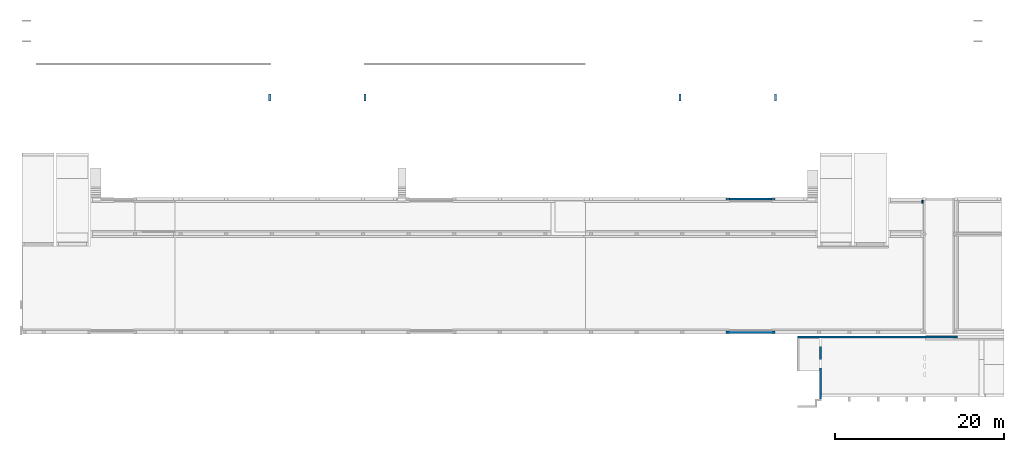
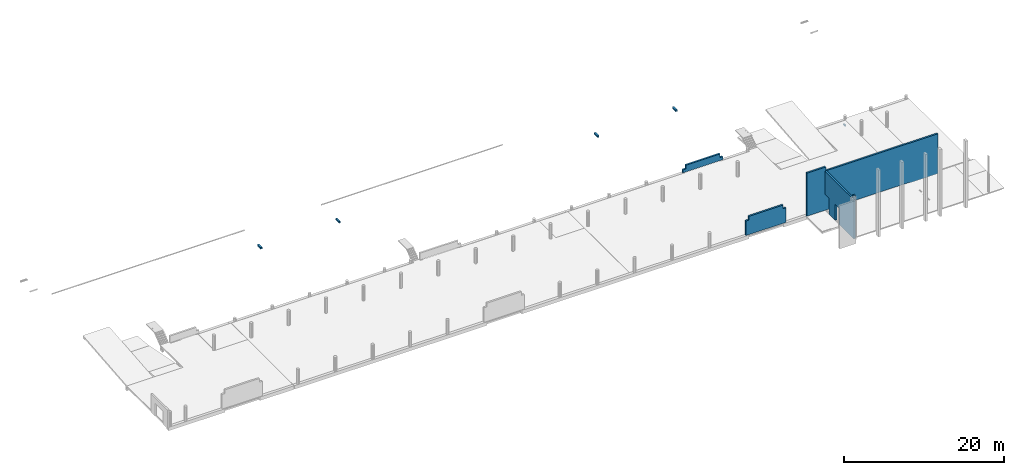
# One storey, part 6 of 9: 9 walls, 9 openings.
"""IFC2X3 building model written with IfcOpenShell, lengths in millimetres."""

from ifc_helpers import new_model, entity, si_unit, converted_unit, derived_unit, direction, frame, frame_2d, origin, origin_2d_with_axis, place, context, subcontext, project, spatial, rectangle, extrude, material, layer, layer_set, layer_usage, type_object, element, save


model = new_model("IFC2X3")

# Units and contexts
model_context = context("Model", 3, precision=0.01, world=origin(), true_north=direction((6.12303176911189e-17, 1.0)))
body_context = subcontext(model_context, "Body", "Model", "MODEL_VIEW")
ifc_project = project(units=[si_unit("LENGTHUNIT", "METRE", prefix="MILLI"), si_unit("AREAUNIT", "SQUARE_METRE"), si_unit("VOLUMEUNIT", "CUBIC_METRE"), converted_unit("PLANEANGLEUNIT", "DEGREE", entity("IfcRatioMeasure", 0.0174532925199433), si_unit("PLANEANGLEUNIT", "RADIAN"), dimensions=[0, 0, 0, 0, 0, 0, 0]), si_unit("MASSUNIT", "GRAM", prefix="KILO"), derived_unit("MASSDENSITYUNIT", [(si_unit("MASSUNIT", "GRAM", prefix="KILO"), 1), (si_unit("LENGTHUNIT", "METRE"), -3)]), si_unit("TIMEUNIT", "SECOND"), si_unit("FREQUENCYUNIT", "HERTZ"), si_unit("THERMODYNAMICTEMPERATUREUNIT", "DEGREE_CELSIUS"), derived_unit("THERMALTRANSMITTANCEUNIT", [(si_unit("MASSUNIT", "GRAM", prefix="KILO"), 1), (si_unit("THERMODYNAMICTEMPERATUREUNIT", "KELVIN"), -1), (si_unit("TIMEUNIT", "SECOND"), -3)]), derived_unit("VOLUMETRICFLOWRATEUNIT", [(si_unit("LENGTHUNIT", "METRE"), 3), (si_unit("TIMEUNIT", "SECOND"), -1)]), si_unit("ELECTRICCURRENTUNIT", "AMPERE"), si_unit("ELECTRICVOLTAGEUNIT", "VOLT"), si_unit("POWERUNIT", "WATT"), si_unit("FORCEUNIT", "NEWTON", prefix="KILO"), si_unit("ILLUMINANCEUNIT", "LUX"), si_unit("LUMINOUSFLUXUNIT", "LUMEN"), si_unit("LUMINOUSINTENSITYUNIT", "CANDELA"), derived_unit("USERDEFINED", [(si_unit("MASSUNIT", "GRAM", prefix="KILO"), -1), (si_unit("LENGTHUNIT", "METRE"), -2), (si_unit("TIMEUNIT", "SECOND"), 3), (si_unit("LUMINOUSFLUXUNIT", "LUMEN"), 1)]), derived_unit("LINEARVELOCITYUNIT", [(si_unit("LENGTHUNIT", "METRE"), 1), (si_unit("TIMEUNIT", "SECOND"), -1)]), si_unit("PRESSUREUNIT", "PASCAL"), derived_unit("USERDEFINED", [(si_unit("LENGTHUNIT", "METRE"), -2), (si_unit("MASSUNIT", "GRAM", prefix="KILO"), 1), (si_unit("TIMEUNIT", "SECOND"), -2)])], contexts=[model_context])

# Site, building, storey
site_placement = place(None, origin())
site = spatial("IfcSite", under=ifc_project, at=site_placement, Name="Default", CompositionType="ELEMENT")
building_placement = place(site_placement, origin())
building = spatial("IfcBuilding", under=site, at=building_placement, Name="niet gebruiken", CompositionType="ELEMENT")
storey_placement = place(building_placement, frame((0.0, 0.0, 5570.0)))
storey = spatial("IfcBuildingStorey", under=building, at=storey_placement, Name="01b tweede tussenverdieping", CompositionType="ELEMENT", Elevation=5570.0)

# Wall, openings
ifc_material_1 = material(Name="NLRS_f2_beton prefab")
ifc_layer_1 = layer(ifc_material_1, 250.0)
ifc_layer_set_1 = layer_set([ifc_layer_1], Name="Basic Wall:NLRS_21.21_WA_beton prefab d=250_gen")
ifc_layer_usage_1 = layer_usage(ifc_layer_set_1, "AXIS2", "NEGATIVE", 125.0)
wall_type_1 = type_object("IfcWallType", Name="Basic Wall:NLRS_21.21_WA_beton prefab d=250_gen", PredefinedType="STANDARD", material=ifc_layer_set_1)
wall_1_placement = place(storey_placement, frame((102800.0, 1300.0, 360.0), z_axis=(0.0, 0.0, 1.0), x_axis=(0.0, 1.0, 0.0)))
wall_1 = element("IfcWallStandardCase", 1, at=wall_1_placement, inside=storey, type_object=wall_type_1, material=ifc_layer_usage_1, Name="Basic Wall:NLRS_21.21_WA_beton prefab d=250_gen", ObjectType="Basic Wall:NLRS_21.21_WA_beton prefab d=250_gen", context=body_context, shape_type="SweptSolid", body=[
    extrude(rectangle(XDim=7195.99999999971, YDim=250.000000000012, at=frame_2d((3597.99999999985, 1.56319401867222e-13), x_axis=(-1.0, 0.0))), origin(), (0.0, 0.0, 1.0), 6580.0),
])
opening_1_placement = place(wall_1_placement, origin())
element("IfcOpeningElement", 2, at=opening_1_placement, cuts=wall_1, Name="Basic Wall:NLRS_21.21_WA_beton prefab d=250_gen", ObjectType="Opening", context=body_context, shape_type="SweptSolid", body=[
    extrude(rectangle(XDim=2475.0, YDim=1016.0, at=frame_2d((-5.6843418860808e-13, 0.0), x_axis=(1.0, 0.0))), frame((4168.0, -125.0, 1217.5), z_axis=(0.0, 1.0, 0.0), x_axis=(0.0, 0.0, -1.0)), (0.0, 0.0, 1.0), 250.000000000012),
])
opening_2_placement = place(wall_1_placement, origin())
element("IfcOpeningElement", 3, at=opening_2_placement, cuts=wall_1, Name="Basic Wall:NLRS_21.21_WA_beton prefab d=250_gen", ObjectType="Opening", context=body_context, shape_type="SweptSolid", body=[
    extrude(rectangle(XDim=2475.0, YDim=1016.0, at=frame_2d((-5.6843418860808e-13, 0.0), x_axis=(1.0, 0.0))), frame((6688.0, -125.0, 1217.5), z_axis=(0.0, 1.0, 0.0), x_axis=(0.0, 0.0, -1.0)), (0.0, 0.0, 1.0), 250.000000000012),
])
opening_3_placement = place(wall_1_placement, origin())
element("IfcOpeningElement", 4, at=opening_3_placement, cuts=wall_1, Name="Basic Wall:NLRS_21.21_WA_beton prefab d=250_gen", ObjectType="Opening", context=body_context, shape_type="SweptSolid", body=[
    extrude(rectangle(XDim=600.0, YDim=7050.00000000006, at=frame_2d((-1.08002495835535e-12, 0.0), x_axis=(1.0, 0.0))), frame((3796.0, 125.0, 6280.0), z_axis=(0.0, -1.0, 0.0), x_axis=(0.0, 0.0, 1.0)), (0.0, 0.0, 1.0), 250.0),
])

ifc_layer_usage_2 = layer_usage(ifc_layer_set_1, "AXIS2", "NEGATIVE", 125.0)
wall_2_placement = place(storey_placement, frame((100045.0, 8621.0, 260.0)))
wall_2 = element("IfcWallStandardCase", 5, at=wall_2_placement, inside=storey, type_object=wall_type_1, material=ifc_layer_usage_2, Name="Basic Wall:NLRS_21.21_WA_beton prefab d=250_gen", ObjectType="Basic Wall:NLRS_21.21_WA_beton prefab d=250_gen", context=body_context, shape_type="SweptSolid", body=[
    extrude(rectangle(XDim=18955.0000000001, YDim=249.999999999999, at=frame_2d((9477.50000000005, 0.0), x_axis=(-1.0, 0.0))), origin(), (0.0, 0.0, 1.0), 6680.0),
])
opening_4_placement = place(wall_2_placement, origin())
element("IfcOpeningElement", 6, at=opening_4_placement, cuts=wall_2, Name="Basic Wall:NLRS_21.21_WA_beton prefab d=250_gen", ObjectType="Opening", context=body_context, shape_type="SweptSolid", body=[
    extrude(rectangle(XDim=600.000000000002, YDim=16200.0000000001, at=frame_2d((0.0, 8.64019966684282e-12), x_axis=(1.0, 0.0))), frame((10855.0, 125.0, 6380.0), z_axis=(0.0, -1.0, 0.0), x_axis=(0.0, 0.0, -1.0)), (0.0, 0.0, 1.0), 250.0),
])
opening_5_placement = place(wall_2_placement, origin())
element("IfcOpeningElement", 7, at=opening_5_placement, cuts=wall_2, Name="Basic Wall:NLRS_21.21_WA_beton prefab d=250_gen", ObjectType="Opening", context=body_context, shape_type="SweptSolid", body=[
    extrude(rectangle(XDim=100.000000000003, YDim=14924.9999999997, at=origin_2d_with_axis()), frame((7462.49999999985, 125.0, 50.0), z_axis=(0.0, -1.0, 0.0), x_axis=(0.0, 0.0, 1.0)), (0.0, 0.0, 1.0), 250.0),
])

# Wall
wall_type_2 = type_object("IfcWallType", Name="NLRS_21.21_SF_WPB_oplegnok prefabbeton_gen:200x250", PredefinedType="NOTDEFINED", material=ifc_material_1)
wall_3_placement = place(storey_placement, frame((114750.0, 24501.0, -800.0), z_axis=(0.0, 0.0, 1.0), x_axis=(0.0, 1.0, 0.0)))
element("IfcWall", 8, at=wall_3_placement, inside=storey, type_object=wall_type_2, material=ifc_material_1, Name="NLRS_21.21_SF_WPB_oplegnok prefabbeton_gen:200x250", ObjectType="NLRS_21.21_SF_WPB_oplegnok prefabbeton_gen:200x250", context=body_context, shape_type="SweptSolid", body=[
    extrude(rectangle(XDim=350.000000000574, YDim=199.999999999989, at=frame_2d((0.0, -8.66862137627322e-12), x_axis=(1.0, 0.0))), frame((175.0, -100.0, 0.0)), (0.0, 0.0, 1.0), 250.000000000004),
])

# Wall, openings
ifc_layer_2 = layer(ifc_material_1, 250.0)
ifc_layer_set_2 = layer_set([ifc_layer_2], Name="Basic Wall:NLRS_16.21_WA_beton prefab d=250_gen")
ifc_layer_usage_3 = layer_usage(ifc_layer_set_2, "AXIS2", "NEGATIVE", 125.0)
wall_type_3 = type_object("IfcWallType", Name="Basic Wall:NLRS_16.21_WA_beton prefab d=250_gen", PredefinedType="STANDARD", material=ifc_layer_set_2)
wall_4_placement = place(storey_placement, frame((91600.0, 24976.0, 30.0)))
wall_4 = element("IfcWallStandardCase", 9, at=wall_4_placement, inside=storey, type_object=wall_type_3, material=ifc_layer_usage_3, Name="Basic Wall:NLRS_16.21_WA_beton prefab d=250_gen", ObjectType="Basic Wall:NLRS_16.21_WA_beton prefab d=250_gen", context=body_context, shape_type="SweptSolid", body=[
    extrude(rectangle(XDim=5799.99999999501, YDim=250.000000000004, at=frame_2d((2899.9999999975, 0.0), x_axis=(-1.0, 0.0))), origin(), (0.0, 0.0, 1.0), 1019.99999999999),
])
opening_6_placement = place(wall_4_placement, origin())
element("IfcOpeningElement", 10, at=opening_6_placement, cuts=wall_4, Name="Basic Wall:NLRS_16.21_WA_beton prefab d=250_gen", ObjectType="Opening", context=body_context, shape_type="SweptSolid", body=[
    extrude(rectangle(XDim=560.0, YDim=420.000000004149, at=frame_2d((0.0, 8.66862137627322e-12), x_axis=(1.0, 0.0))), frame((5590.0, 125.0, 740.0), z_axis=(0.0, -1.0, 0.0), x_axis=(0.0, 0.0, 1.0)), (0.0, 0.0, 1.0), 250.0),
])
opening_7_placement = place(wall_4_placement, origin())
element("IfcOpeningElement", 11, at=opening_7_placement, cuts=wall_4, Name="Basic Wall:NLRS_16.21_WA_beton prefab d=250_gen", ObjectType="Opening", context=body_context, shape_type="SweptSolid", body=[
    extrude(rectangle(XDim=560.0, YDim=419.999999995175, at=frame_2d((8.66862137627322e-12, 0.0), x_axis=(0.0, 1.0))), frame((210.0, 125.0, 740.0), z_axis=(0.0, -1.0, 0.0), x_axis=(-1.0, 0.0, 0.0)), (0.0, 0.0, 1.0), 250.0),
])

ifc_layer_usage_4 = layer_usage(ifc_layer_set_2, "AXIS2", "NEGATIVE", 125.0)
wall_5_placement = place(storey_placement, frame((91600.0, 9196.0, 30.0)))
wall_5 = element("IfcWallStandardCase", 12, at=wall_5_placement, inside=storey, type_object=wall_type_3, material=ifc_layer_usage_4, Name="Basic Wall:NLRS_16.21_WA_beton prefab d=250_gen", ObjectType="Basic Wall:NLRS_16.21_WA_beton prefab d=250_gen", context=body_context, shape_type="SweptSolid", body=[
    extrude(rectangle(XDim=5799.99999999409, YDim=249.999999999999, at=frame_2d((2899.99999999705, 3.19744231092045e-13), x_axis=(-1.0, 0.0))), origin(), (0.0, 0.0, 1.0), 2779.99999999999),
])
opening_8_placement = place(wall_5_placement, origin())
element("IfcOpeningElement", 13, at=opening_8_placement, cuts=wall_5, Name="Basic Wall:NLRS_16.21_WA_beton prefab d=250_gen", ObjectType="Opening", context=body_context, shape_type="SweptSolid", body=[
    extrude(rectangle(XDim=560.000000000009, YDim=420.000000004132, at=origin_2d_with_axis()), frame((5590.0, 125.0, 2500.0), z_axis=(0.0, -1.0, 0.0), x_axis=(0.0, 0.0, 1.0)), (0.0, 0.0, 1.0), 250.0),
])
opening_9_placement = place(wall_5_placement, origin())
element("IfcOpeningElement", 14, at=opening_9_placement, cuts=wall_5, Name="Basic Wall:NLRS_16.21_WA_beton prefab d=250_gen", ObjectType="Opening", context=body_context, shape_type="SweptSolid", body=[
    extrude(rectangle(XDim=560.000000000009, YDim=419.999999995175, at=frame_2d((-8.66862137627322e-12, 0.0), x_axis=(0.0, 1.0))), frame((210.0, 125.0, 2500.0), z_axis=(0.0, -1.0, 0.0), x_axis=(-1.0, 0.0, 0.0)), (0.0, 0.0, 1.0), 250.0),
])

# Walls
ifc_material_2 = material(Name="NLRS_f2_beton ihwg")
wall_type_4 = type_object("IfcWallType", Name="NLRS_21.21_SF_WPB_oplegnok ihwg beton_gen:250x250", PredefinedType="NOTDEFINED", material=ifc_material_2)
wall_6_placement = place(storey_placement, frame((48725.0, 36556.0, 240.0), z_axis=(0.0, 0.0, 1.0), x_axis=(0.0, 1.0, 0.0)))
element("IfcWall", 15, at=wall_6_placement, inside=storey, type_object=wall_type_4, material=ifc_material_2, Name="NLRS_21.21_SF_WPB_oplegnok ihwg beton_gen:250x250", ObjectType="NLRS_21.21_SF_WPB_oplegnok ihwg beton_gen:250x250", context=body_context, shape_type="SweptSolid", body=[
    extrude(rectangle(XDim=850.000000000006, YDim=250.000000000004, at=origin_2d_with_axis()), frame((425.0, -125.0, 0.0)), (0.0, 0.0, 1.0), 250.000000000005),
])
wall_7_placement = place(storey_placement, frame((97325.0, 36556.0, 240.0), z_axis=(0.0, 0.0, 1.0), x_axis=(0.0, 1.0, 0.0)))
element("IfcWall", 16, at=wall_7_placement, inside=storey, type_object=wall_type_4, material=ifc_material_2, Name="NLRS_21.21_SF_WPB_oplegnok ihwg beton_gen:250x250", ObjectType="NLRS_21.21_SF_WPB_oplegnok ihwg beton_gen:250x250", context=body_context, shape_type="SweptSolid", body=[
    extrude(rectangle(XDim=850.000000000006, YDim=249.999999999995, at=frame_2d((0.0, -8.66151594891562e-12), x_axis=(1.0, 0.0))), frame((425.0, -125.0, 0.0)), (0.0, 0.0, 1.0), 250.000000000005),
])
wall_8_placement = place(storey_placement, frame((37425.0, 36556.0, 240.0), z_axis=(0.0, 0.0, 1.0), x_axis=(0.0, 1.0, 0.0)))
element("IfcWall", 17, at=wall_8_placement, inside=storey, type_object=wall_type_4, material=ifc_material_2, Name="NLRS_21.21_SF_WPB_oplegnok ihwg beton_gen:250x250", ObjectType="NLRS_21.21_SF_WPB_oplegnok ihwg beton_gen:250x250", context=body_context, shape_type="SweptSolid", body=[
    extrude(rectangle(XDim=249.999999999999, YDim=850.000000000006, at=frame_2d((-2.16715534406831e-12, 0.0), x_axis=(1.0, 0.0))), frame((425.0, -125.0, 0.0), z_axis=(0.0, 0.0, 1.0), x_axis=(0.0, -1.0, 0.0)), (0.0, 0.0, 1.0), 250.000000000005),
])
wall_9_placement = place(storey_placement, frame((86025.0, 36556.0, 240.0), z_axis=(0.0, 0.0, 1.0), x_axis=(0.0, 1.0, 0.0)))
element("IfcWall", 18, at=wall_9_placement, inside=storey, type_object=wall_type_4, material=ifc_material_2, Name="NLRS_21.21_SF_WPB_oplegnok ihwg beton_gen:250x250", ObjectType="NLRS_21.21_SF_WPB_oplegnok ihwg beton_gen:250x250", context=body_context, shape_type="SweptSolid", body=[
    extrude(rectangle(XDim=250.000000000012, YDim=850.000000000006, at=origin_2d_with_axis()), frame((425.0, -125.0, 0.0), z_axis=(0.0, 0.0, 1.0), x_axis=(0.0, -1.0, 0.0)), (0.0, 0.0, 1.0), 250.000000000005),
])

save(model, "model.ifc")
